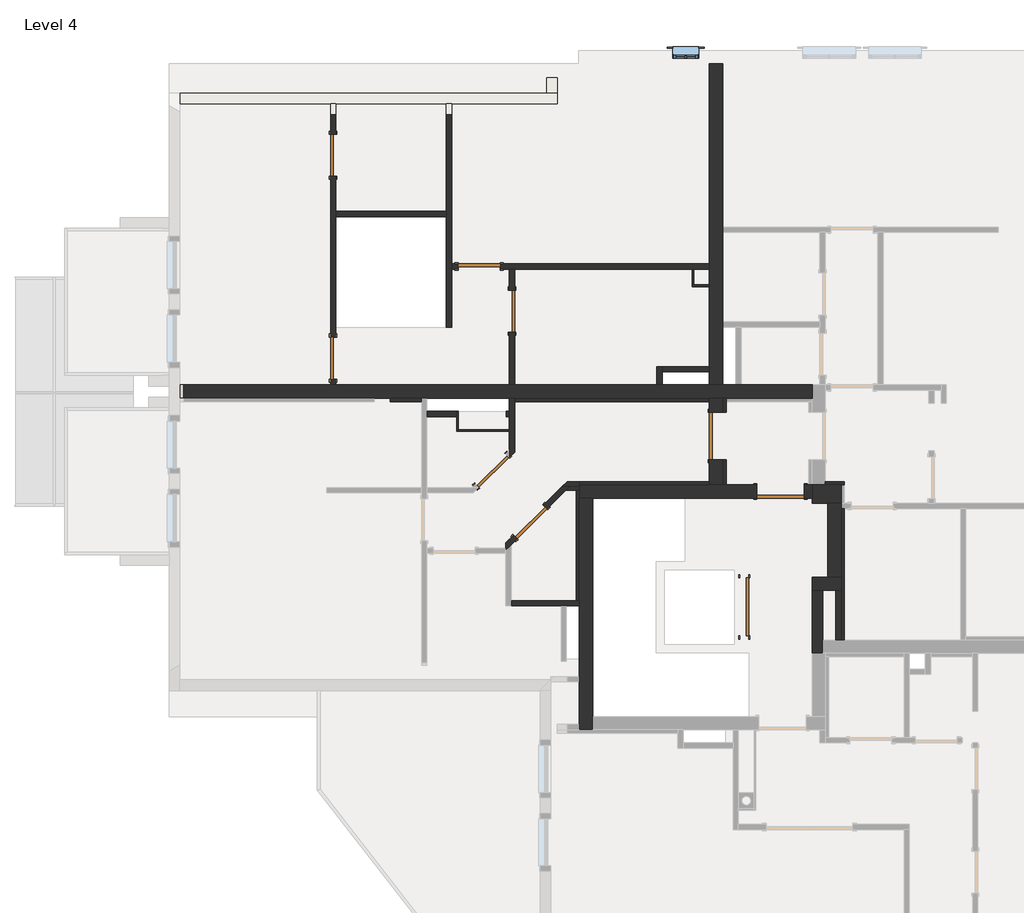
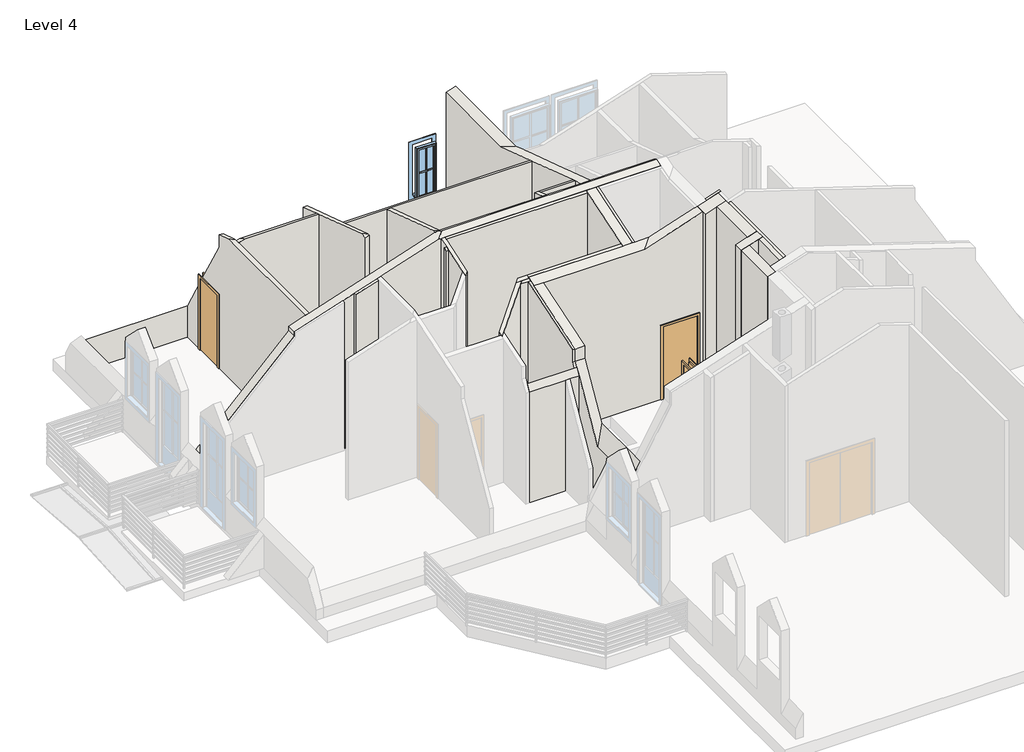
# One storey, part 3 of 4: 37 walls, 9 doors, 1 window.
"""IFC4 building model written with IfcOpenShell, lengths in millimetres."""

from ifc_helpers import new_model, si_unit, frame, origin, place, context, project, spatial, polyline, outline, extrude, faceted_brep, transform, mapped, element, save
from components import standard_door_sd_1100x2000_1d62120a, standard_door_sd_800x2000_6a16926d, standard_door_sd_800x2000_80f4ff25, standard_door_sd_900x2000_a6683946, standard_door_sd_900x2000_4224ae2a, standard_window_with_mullions_cf772253

model = new_model("IFC4")

# Units and contexts
model_context = context("Model", 3, world=origin())
ifc_project = project(units=[si_unit("LENGTHUNIT", "METRE", prefix="MILLI")], contexts=[model_context])

# Site, building, storey
site = spatial("IfcSite", under=ifc_project)
building = spatial("IfcBuilding", under=site)
storey = spatial("IfcBuildingStorey", under=building, Name="Level 4", Elevation=11800.0)

# Doors
placement = place(None, origin())
standard_door_sd_1100x2000_shape = standard_door_sd_1100x2000_1d62120a(model_context)
element("IfcDoor", 1, ObjectType="Standard Door : SD 1100x2000", at=placement, inside=storey, context=model_context, shape_type="MappedRepresentation", body=[
    mapped(standard_door_sd_1100x2000_shape, transform((277.8037835, 250.1290541, 11800.0), x_axis=(0.0, -1.0, 0.0), y_axis=(1.0, 0.0, 0.0), z_axis=(0.0, 0.0, 1.0))),
])
standard_door_sd_800x2000_shape = standard_door_sd_800x2000_6a16926d(model_context)
element("IfcDoor", 2, ObjectType="Standard Door : SD 800x2000", at=placement, inside=storey, context=model_context, shape_type="MappedRepresentation", body=[
    mapped(standard_door_sd_800x2000_shape, transform((-4517.2943935, 2840.0499619, 11800.0), x_axis=(0.712655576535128, 0.7015140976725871, 0.0), y_axis=(-0.7015140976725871, 0.712655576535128, 0.0), z_axis=(0.0, 0.0, 1.0))),
])
element("IfcDoor", 3, ObjectType="Standard Door : SD 800x2000", at=placement, inside=storey, context=model_context, shape_type="MappedRepresentation", body=[
    mapped(standard_door_sd_800x2000_shape, transform((-4137.1962165, 5871.7254016, 11800.0), x_axis=(0.0, 0.9999999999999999, 0.0), y_axis=(-0.9999999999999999, 0.0, 0.0), z_axis=(0.0, 0.0, 1.0))),
])
element("IfcDoor", 4, ObjectType="Standard Door : SD 800x2000", at=placement, inside=storey, context=model_context, shape_type="MappedRepresentation", body=[
    mapped(standard_door_sd_800x2000_shape, transform((-7537.1962165, 8831.4295669, 11800.0), x_axis=(0.0, -1.0, 0.0), y_axis=(1.0, 0.0, 0.0), z_axis=(0.0, 0.0, 1.0))),
])
standard_door_sd_800x2000_2_shape = standard_door_sd_800x2000_80f4ff25(model_context)
element("IfcDoor", 5, ObjectType="Standard Door : SD 800x2000", at=placement, inside=storey, context=model_context, shape_type="MappedRepresentation", body=[
    mapped(standard_door_sd_800x2000_2_shape, transform((-3790.7010875, 1863.413505, 11800.0), x_axis=(-0.7071067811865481, -0.7071067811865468, 0.0), y_axis=(0.7071067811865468, -0.7071067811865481, 0.0), z_axis=(0.0, 0.0, 1.0))),
])
element("IfcDoor", 6, ObjectType="Standard Door : SD 800x2000", at=placement, inside=storey, context=model_context, shape_type="MappedRepresentation", body=[
    mapped(standard_door_sd_800x2000_2_shape, transform((-7537.1962165, 4978.4889536, 11800.0), x_axis=(0.0, 1.0, 0.0), y_axis=(-1.0, 0.0, 0.0), z_axis=(0.0, 0.0, 1.0))),
])
element("IfcDoor", 7, ObjectType="Standard Door : SD 800x2000", at=placement, inside=storey, context=model_context, shape_type="MappedRepresentation", body=[
    mapped(standard_door_sd_800x2000_2_shape, transform((-4763.3256924, 6717.6290541, 11800.0), x_axis=(1.0, 0.0, 0.0), y_axis=(0.0, 1.0, 0.0), z_axis=(0.0, 0.0, 1.0))),
])
standard_door_sd_900x2000_shape = standard_door_sd_900x2000_a6683946(model_context)
element("IfcDoor", 8, ObjectType="Standard Door : SD 900x2000", at=placement, inside=storey, context=model_context, shape_type="MappedRepresentation", body=[
    mapped(standard_door_sd_900x2000_shape, transform((-262.1962165, 3497.5977832, 11800.0), x_axis=(0.0, -1.0, 0.0), y_axis=(1.0, 0.0, 0.0), z_axis=(0.0, 0.0, 1.0))),
])
standard_door_sd_900x2000_2_shape = standard_door_sd_900x2000_4224ae2a(model_context)
element("IfcDoor", 9, ObjectType="Standard Door : SD 900x2000", at=placement, inside=storey, context=model_context, shape_type="MappedRepresentation", body=[
    mapped(standard_door_sd_900x2000_2_shape, transform((965.3697901, 2442.6290541, 11800.0), x_axis=(-1.0, 0.0, 0.0), y_axis=(0.0, -1.0, 0.0), z_axis=(0.0, 0.0, 1.0))),
])

# Walls
element("IfcWall", 10, ObjectType="Exterior - 150+50mm", at=placement, inside=storey, context=model_context, shape_type="Brep", body=[
    faceted_brep([(-10456.4352243, 9807.6290541, 11800.0), (-7587.1962165, 9807.6290541, 11800.0), (-7487.1962165, 9807.6290541, 11800.0), (-5387.1962165, 9807.6290541, 11800.0), (-5287.1962165, 9807.6290541, 11800.0), (-3277.1962165, 9807.6290541, 11800.0), (-3277.1962165, 9807.6290541, 12667.9110615), (-5287.1962165, 9807.6290541, 12667.9110615), (-5387.1962165, 9807.6290541, 12667.9110615), (-7487.1962165, 9807.6290541, 12667.9110615), (-7587.1962165, 9807.6290541, 12667.9110615), (-10456.4352243, 9807.6290541, 12667.9110615), (-10456.4352243, 10007.6290541, 11800.0), (-10456.4352243, 10007.6290541, 12321.5009), (-3477.1962165, 10007.6290541, 12321.5009), (-3277.1962165, 10007.6290541, 12321.5009), (-3277.1962165, 10007.6290541, 11800.0), (-3477.1962165, 10007.6290541, 11800.0)], [[[0, 1, 2, 3, 4, 5, 6, 7, 8, 9, 10, 11]], [[12, 13, 14, 15, 16, 17]], [[5, 4, 3, 2, 1, 0, 12, 17, 16]], [[6, 5, 16, 15]], [[0, 11, 13, 12]], [[11, 10, 9, 8, 7, 6, 15, 14, 13]]]),
])
element("IfcWall", 11, ObjectType="Exterior - 150+50mm", at=placement, inside=storey, context=model_context, shape_type="SweptSolid", body=[
    extrude(outline(polyline([(10007.6290541, 11800.0), (10007.6290541, 12321.5009), (10308.7177391, 11800.0), (10007.6290541, 11800.0)])), frame((-3477.1962165, 0.0, 0.0), z_axis=(1.0, 0.0, 0.0), x_axis=(0.0, 1.0, 0.0)), (0.0, 0.0, 1.0), 200.0),
])
element("IfcWall", 12, ObjectType="Interior - 100mm", at=placement, inside=storey, context=model_context, shape_type="Brep", body=[
    faceted_brep([(-4187.1962165, 3094.8273477, 11800.0), (-4187.1962165, 3235.1475855, 11800.0), (-4187.1962165, 3587.6290541, 11800.0), (-4187.1962165, 3617.6290541, 11800.0), (-4187.1962165, 3867.6290541, 11800.0), (-4187.1962165, 3967.6290541, 11800.0), (-4187.1962165, 4217.6290541, 11800.0), (-4087.1962165, 4217.6290541, 11800.0), (-4087.1962165, 4152.6290541, 11800.0), (-4087.1962165, 3193.2639727, 11800.0), (-4187.1962165, 3094.8273477, 16359.5045059), (-4187.1962165, 3235.1475855, 16405.097315), (-4187.1962165, 3867.6290541, 16610.6030016), (-4187.1962165, 3967.6290541, 16643.0949712), (-4187.1962165, 4217.6290541, 16724.3248953), (-4087.1962165, 4217.6290541, 16724.3248953), (-4087.1962165, 4152.6290541, 16703.205115), (-4087.1962165, 3193.2639727, 16391.4885042)], [[[0, 1, 2, 3, 4, 5, 6, 7, 8, 9]], [[6, 5, 4, 3, 2, 1, 0, 10, 11, 12, 13, 14]], [[7, 15, 16, 17, 9, 8]], [[6, 14, 15, 7]], [[10, 0, 9, 17]], [[14, 13, 12, 11, 10, 17, 16, 15]]]),
])
element("IfcWall", 13, ObjectType="Interior - 100mm", at=placement, inside=storey, context=model_context, shape_type="Brep", body=[
    faceted_brep([(-2857.1962165, 2632.6290541, 11800.0), (-3092.1962165, 2632.6290541, 11800.0), (-3092.1962165, 2632.6290541, 16209.3271768), (-2857.1962165, 2632.6290541, 16209.3271768), (-2857.1962165, 2532.6290541, 11800.0), (-2857.1962165, 2532.6290541, 16176.8352071), (-3050.7748603, 2532.6290541, 16176.8352071), (-3192.1962165, 2532.6290541, 16176.8352071), (-3192.1962165, 2532.6290541, 11800.0), (-3050.7748603, 2532.6290541, 11800.0)], [[[0, 1, 2, 3]], [[4, 5, 6, 7, 8, 9]], [[1, 0, 4, 9, 8]], [[2, 1, 8, 7]], [[0, 3, 5, 4]], [[3, 2, 7, 6, 5]]]),
])
element("IfcWall", 14, ObjectType="Interior - 100mm", at=placement, inside=storey, context=model_context, shape_type="Brep", body=[
    faceted_brep([(-4257.1962165, 1467.6290541, 11800.0), (-4108.899139, 1615.9261316, 11800.0), (-4038.1884609, 1545.2154535, 11800.0), (-4157.1962165, 1426.2076978, 11800.0), (-4257.1962165, 1326.2076978, 11800.0), (-3543.2137141, 2181.6115566, 11800.0), (-3192.1962165, 2532.6290541, 11800.0), (-3050.7748603, 2532.6290541, 11800.0), (-3115.7748603, 2467.6290541, 11800.0), (-3472.5030359, 2110.9008784, 11800.0), (-4108.899139, 1615.9261316, 13800.0), (-4257.1962165, 1467.6290541, 15830.7957306), (-3192.1962165, 2532.6290541, 16176.8352071), (-3543.2137141, 2181.6115566, 13800.0), (-4038.1884609, 1545.2154535, 13800.0), (-3472.5030359, 2110.9008784, 13800.0), (-3050.7748603, 2532.6290541, 16176.8352071), (-3115.7748603, 2467.6290541, 16155.7154269), (-4157.1962165, 1426.2076978, 15817.3371162), (-4257.1962165, 1326.2076978, 15784.8451465)], [[[0, 1, 2, 3, 4]], [[5, 6, 7, 8, 9]], [[10, 1, 0, 11, 12, 6, 5, 13]], [[4, 3, 2, 14, 15, 9, 8, 7, 16, 17, 18, 19]], [[11, 0, 4, 19]], [[6, 12, 16, 7]], [[12, 11, 19, 18, 17, 16]], [[14, 2, 1, 10]], [[15, 14, 10, 13]], [[9, 15, 13, 5]]]),
])
element("IfcWall", 15, ObjectType="Interior - 100mm", at=placement, inside=storey, context=model_context, shape_type="Brep", body=[
    faceted_brep([(-4157.1962165, 267.6290541, 11800.0), (-3207.1962165, 267.6290541, 11800.0), (-3107.1962165, 267.6290541, 11800.0), (-2857.1962165, 267.6290541, 11800.0), (-2857.1962165, 267.6290541, 14861.0362405), (-3107.1962165, 267.6290541, 14861.0362405), (-3207.1962165, 267.6290541, 14861.0362405), (-4157.1962165, 267.6290541, 14861.0362405), (-4157.1962165, 367.6290541, 11800.0), (-4157.1962165, 367.6290541, 15034.2413213), (-2922.1962165, 367.6290541, 15034.2413213), (-2857.1962165, 367.6290541, 15034.2413213), (-2857.1962165, 367.6290541, 11800.0), (-2922.1962165, 367.6290541, 11800.0)], [[[0, 1, 2, 3, 4, 5, 6, 7]], [[8, 9, 10, 11, 12, 13]], [[3, 2, 1, 0, 8, 13, 12]], [[0, 7, 9, 8]], [[4, 3, 12, 11]], [[7, 6, 5, 4, 11, 10, 9]]]),
])
element("IfcWall", 16, ObjectType="Interior - 100mm", at=placement, inside=storey, context=model_context, shape_type="SweptSolid", body=[
    extrude(outline(polyline([(3967.6290541, 16643.0949712), (3967.6290541, 11800.0), (3867.6290541, 11800.0), (3867.6290541, 16610.6030016), (3967.6290541, 16643.0949712)])), frame((-4252.0439618, 0.0, 0.0), z_axis=(1.0, 0.0, 0.0), x_axis=(0.0, 1.0, 0.0)), (0.0, 0.0, 1.0), 64.8477452),
])
element("IfcWall", 17, ObjectType="Interior - 100mm", at=placement, inside=storey, context=model_context, shape_type="Brep", body=[
    faceted_brep([(-7587.1962165, 9807.6290541, 11800.0), (-7487.1962165, 9807.6290541, 11800.0), (-7487.1962165, 9231.4295669, 11800.0), (-7587.1962165, 9231.4295669, 11800.0), (-7587.1962165, 9807.6290541, 12667.9110615), (-7587.1962165, 9231.4295669, 13665.9178486), (-7487.1962165, 9807.6290541, 12667.9110615), (-7487.1962165, 9231.4295669, 13665.9178486)], [[[0, 1, 2, 3]], [[4, 0, 3, 5]], [[1, 6, 7, 2]], [[0, 4, 6, 1]], [[6, 4, 5, 7]], [[3, 2, 7, 5]]]),
    faceted_brep([(-7487.1962165, 4467.6290541, 11800.0), (-7587.1962165, 4467.6290541, 11800.0), (-7587.1962165, 4578.4889536, 11800.0), (-7487.1962165, 4578.4889536, 11800.0), (-7487.1962165, 5378.4889536, 11800.0), (-7587.1962165, 5378.4889536, 11800.0), (-7587.1962165, 8431.4295669, 11800.0), (-7487.1962165, 8431.4295669, 11800.0), (-7487.1962165, 7767.6290541, 11800.0), (-7487.1962165, 7667.6290541, 11800.0), (-7587.1962165, 4467.6290541, 15637.1643294), (-7587.1962165, 7937.3638174, 15637.1643294), (-7587.1962165, 8372.0175181, 15495.936781), (-7587.1962165, 8372.0175181, 15154.4631818), (-7587.1962165, 9154.0172007, 13800.0), (-7587.1962165, 8431.4295669, 13800.0), (-7587.1962165, 5378.4889536, 13800.0), (-7587.1962165, 4578.4889536, 13800.0), (-7487.1962165, 4467.6290541, 15669.6562991), (-7487.1962165, 4578.4889536, 13800.0), (-7487.1962165, 5378.4889536, 13800.0), (-7487.1962165, 8431.4295669, 13800.0), (-7487.1962165, 9154.0172007, 13800.0), (-7487.1962165, 8372.0175181, 15154.4631818), (-7487.1962165, 8372.0175181, 15495.936781), (-7487.1962165, 7837.3638174, 15669.6562991), (-7487.1962165, 7767.6290541, 15669.6562991), (-7487.1962165, 7667.6290541, 15669.6562991)], [[[0, 1, 2, 3]], [[4, 5, 6, 7, 8, 9]], [[1, 10, 11, 12, 13, 14, 15, 6, 5, 16, 17, 2]], [[18, 0, 3, 19, 20, 4, 9, 8, 7, 21, 22, 23, 24, 25, 26, 27]], [[10, 1, 0, 18]], [[13, 12, 24, 23]], [[13, 23, 22, 14]], [[24, 12, 11, 25]], [[10, 18, 27, 26, 25, 11]], [[16, 5, 4, 20]], [[17, 16, 20, 19]], [[2, 17, 19, 3]], [[15, 21, 7, 6]], [[21, 15, 14, 22]]]),
])
element("IfcWall", 18, ObjectType="Interior - 100mm", at=placement, inside=storey, context=model_context, shape_type="Brep", body=[
    faceted_brep([(-7487.1962165, 7667.6290541, 11800.0), (-5387.1962165, 7667.6290541, 11800.0), (-5387.1962165, 7667.6290541, 15724.8064668), (-7317.4614532, 7667.6290541, 15724.8064668), (-7487.1962165, 7667.6290541, 15669.6562991), (-7487.1962165, 7767.6290541, 11800.0), (-7487.1962165, 7767.6290541, 15669.6562991), (-7417.4614532, 7767.6290541, 15692.3144972), (-5387.1962165, 7767.6290541, 15692.3144972), (-5387.1962165, 7767.6290541, 11800.0)], [[[0, 1, 2, 3, 4]], [[5, 6, 7, 8, 9]], [[1, 0, 5, 9]], [[0, 4, 6, 5]], [[2, 1, 9, 8]], [[4, 3, 7, 6]], [[3, 2, 8, 7]]]),
])
element("IfcWall", 19, ObjectType="Interior - 100mm", at=placement, inside=storey, context=model_context, shape_type="Brep", body=[
    faceted_brep([(-5287.1962165, 5567.6290541, 11800.0), (-5287.1962165, 6667.6290541, 11800.0), (-5287.1962165, 6767.6290541, 11800.0), (-5287.1962165, 9807.6290541, 11800.0), (-5287.1962165, 9807.6290541, 12667.9110615), (-5287.1962165, 8372.0175181, 15154.4631818), (-5287.1962165, 8372.0175181, 15495.936781), (-5287.1962165, 6767.6290541, 16017.2341934), (-5287.1962165, 6667.6290541, 16049.726163), (-5287.1962165, 5637.3638174, 16384.4796308), (-5287.1962165, 5567.6290541, 16384.4796308), (-5387.1962165, 5567.6290541, 11800.0), (-5387.1962165, 5567.6290541, 16351.9876611), (-5387.1962165, 5737.3638174, 16351.9876611), (-5387.1962165, 7667.6290541, 15724.8064668), (-5387.1962165, 7767.6290541, 15692.3144972), (-5387.1962165, 8372.0175181, 15495.936781), (-5387.1962165, 8372.0175181, 15154.4631818), (-5387.1962165, 9807.6290541, 12667.9110615), (-5387.1962165, 9807.6290541, 11800.0), (-5387.1962165, 7767.6290541, 11800.0), (-5387.1962165, 7667.6290541, 11800.0)], [[[0, 1, 2, 3, 4, 5, 6, 7, 8, 9, 10]], [[11, 12, 13, 14, 15, 16, 17, 18, 19, 20, 21]], [[3, 2, 1, 0, 11, 21, 20, 19]], [[0, 10, 12, 11]], [[4, 3, 19, 18]], [[5, 17, 16, 6]], [[5, 4, 18, 17]], [[10, 9, 13, 12]], [[9, 8, 7, 6, 16, 15, 14, 13]]]),
])
element("IfcWall", 20, ObjectType="Interior - 100mm", at=placement, inside=storey, context=model_context, shape_type="Brep", body=[
    faceted_brep([(-387.1962165, 6667.6290541, 11800.0), (-687.1962165, 6667.6290541, 11800.0), (-717.1962165, 6667.6290541, 11800.0), (-4087.1962165, 6667.6290541, 11800.0), (-4187.1962165, 6667.6290541, 11800.0), (-4363.3256924, 6667.6290541, 11800.0), (-4363.3256924, 6767.6290541, 11800.0), (-387.1962165, 6767.6290541, 11800.0), (-5163.3256924, 6667.6290541, 11800.0), (-5287.1962165, 6667.6290541, 11800.0), (-5287.1962165, 6767.6290541, 11800.0), (-5163.3256924, 6767.6290541, 11800.0), (-4363.3256924, 6667.6290541, 13800.0), (-387.1962165, 6667.6290541, 16049.726163), (-4087.1962165, 6667.6290541, 16049.726163), (-4187.1962165, 6667.6290541, 16049.726163), (-5287.1962165, 6667.6290541, 16049.726163), (-5163.3256924, 6667.6290541, 13800.0), (-4363.3256924, 6767.6290541, 13800.0), (-5163.3256924, 6767.6290541, 13800.0), (-5287.1962165, 6767.6290541, 16017.2341934), (-387.1962165, 6767.6290541, 16017.2341934)], [[[0, 1, 2, 3, 4, 5, 6, 7]], [[8, 9, 10, 11]], [[12, 5, 4, 3, 2, 1, 0, 13, 14, 15, 16, 9, 8, 17]], [[7, 6, 18, 19, 11, 10, 20, 21]], [[9, 16, 20, 10]], [[13, 0, 7, 21]], [[16, 15, 14, 13, 21, 20]], [[18, 6, 5, 12]], [[19, 18, 12, 17]], [[11, 19, 17, 8]]]),
])
element("IfcWall", 21, ObjectType="Interior - 100mm", at=placement, inside=storey, context=model_context, shape_type="Brep", body=[
    faceted_brep([(-4087.1962165, 6667.6290541, 11800.0), (-4087.1962165, 6271.7254016, 11800.0), (-4187.1962165, 6271.7254016, 11800.0), (-4187.1962165, 6667.6290541, 11800.0), (-4087.1962165, 5471.7254016, 11800.0), (-4087.1962165, 4467.6290541, 11800.0), (-4187.1962165, 4467.6290541, 11800.0), (-4187.1962165, 5471.7254016, 11800.0), (-4087.1962165, 6271.7254016, 13800.0), (-4087.1962165, 6667.6290541, 16049.726163), (-4087.1962165, 4467.6290541, 16764.5494947), (-4087.1962165, 5471.7254016, 13800.0), (-4187.1962165, 6271.7254016, 13800.0), (-4187.1962165, 5471.7254016, 13800.0), (-4187.1962165, 4467.6290541, 16741.8912966), (-4187.1962165, 4537.3638174, 16741.8912966), (-4187.1962165, 6667.6290541, 16049.726163), (-4117.4614532, 4467.6290541, 16764.5494947)], [[[0, 1, 2, 3]], [[4, 5, 6, 7]], [[8, 1, 0, 9, 10, 5, 4, 11]], [[3, 2, 12, 13, 7, 6, 14, 15, 16]], [[5, 10, 17, 14, 6]], [[9, 0, 3, 16]], [[10, 9, 16, 15, 17]], [[15, 14, 17]], [[12, 2, 1, 8]], [[13, 12, 8, 11]], [[7, 13, 11, 4]]]),
])
element("IfcWall", 22, ObjectType="Interior - 100mm", at=placement, inside=storey, context=model_context, shape_type="Brep", body=[
    faceted_brep([(-1287.1962165, 4467.6290541, 11800.0), (-1287.1962165, 4717.6290541, 11800.0), (-1287.1962165, 4817.6290541, 11800.0), (-1287.1962165, 4817.6290541, 16650.8276011), (-1287.1962165, 4717.6290541, 16683.3195707), (-1287.1962165, 4467.6290541, 16764.5494947), (-1387.1962165, 4467.6290541, 11800.0), (-1387.1962165, 4467.6290541, 16764.5494947), (-1387.1962165, 4817.6290541, 16650.8276011), (-1387.1962165, 4817.6290541, 11800.0)], [[[0, 1, 2, 3, 4, 5]], [[6, 7, 8, 9]], [[2, 1, 0, 6, 9]], [[3, 2, 9, 8]], [[0, 5, 7, 6]], [[5, 4, 3, 8, 7]]]),
])
element("IfcWall", 23, ObjectType="Interior - 100mm", at=placement, inside=storey, context=model_context, shape_type="SweptSolid", body=[
    extrude(outline(polyline([(4717.6290541, 11800.0), (4717.6290541, 16683.3195707), (4817.6290541, 16650.8276011), (4817.6290541, 11800.0), (4717.6290541, 11800.0)])), frame((-1287.1962165, 0.0, 0.0), z_axis=(1.0, 0.0, 0.0), x_axis=(0.0, 1.0, 0.0)), (0.0, 0.0, 1.0), 900.0),
])
element("IfcWall", 24, ObjectType="Interior - 100mm", at=placement, inside=storey, context=model_context, shape_type="SweptSolid", body=[
    extrude(outline(polyline([(16748.3035099, 2012.8037835), (11800.0, 2012.8037835), (11800.0, 2112.8037835), (16780.7954795, 2112.8037835), (16748.3035099, 2012.8037835)])), frame((0.0, -382.3709459, 0.0), z_axis=(0.0, 1.0, 0.0), x_axis=(0.0, 0.0, 1.0)), (0.0, 0.0, 1.0), 950.0),
])
element("IfcWall", 25, ObjectType="Interior - 100mm", at=placement, inside=storey, context=model_context, shape_type="SweptSolid", body=[
    extrude(outline(polyline([(-5187.1962165, 3867.6290541), (-5757.1962165, 3867.6290541), (-5757.1962165, 3967.6290541), (-5187.1962165, 3967.6290541), (-5187.1962165, 3867.6290541)])), frame((0.0, 0.0, 11800.0), z_axis=(0.0, 0.0, 1.0), x_axis=(1.0, 0.0, 0.0)), (0.0, 0.0, 1.0), 2950.0),
])
element("IfcWall", 26, ObjectType="Interior - 200mm", at=placement, inside=storey, context=model_context, shape_type="Brep", body=[
    faceted_brep([(1762.8059596, -632.3709459, 11800.0), (1762.8055844, -382.3709459, 11800.0), (1762.8041587, 567.6290541, 11800.0), (1762.8041587, 567.6290541, 16667.0737078), (1762.8055844, -382.3709459, 16667.074171), (1762.8059596, -632.3709459, 16667.0742929), (1562.8059596, -632.3709459, 11800.0), (1562.8059596, -632.3709459, 16602.0903537), (1562.8041587, 567.6290541, 16602.0897685), (1562.8041587, 567.6290541, 11800.0)], [[[0, 1, 2, 3, 4, 5]], [[6, 7, 8, 9]], [[2, 1, 0, 6, 9]], [[0, 5, 7, 6]], [[3, 2, 9, 8]], [[5, 4, 3, 8, 7]]]),
])
element("IfcWall", 27, ObjectType="Interior - 250mm", at=placement, inside=storey, context=model_context, shape_type="Brep", body=[
    faceted_brep([(-2857.1962165, 2567.6290541, 11800.0), (-387.1962165, 2567.6290541, 11800.0), (-137.1962165, 2567.6290541, 11800.0), (-72.1962165, 2567.6290541, 11800.0), (515.3697901, 2567.6290541, 11800.0), (515.3697901, 2317.6290541, 11800.0), (-2607.1962165, 2317.6290541, 11800.0), (-2857.1962165, 2317.6290541, 11800.0), (1415.3697901, 2567.6290541, 11800.0), (1497.8037835, 2567.6290541, 11800.0), (1562.8037835, 2567.6290541, 11800.0), (1562.8037835, 2317.6290541, 11800.0), (1415.3697901, 2317.6290541, 11800.0), (515.3697901, 2317.6290541, 13800.0), (1415.3697901, 2317.6290541, 13800.0), (1562.8037835, 2317.6290541, 16602.0896466), (39.0051959, 2317.6290541, 16106.9774724), (-2607.1962165, 2317.6290541, 16106.9774724), (-2857.1962165, 2317.6290541, 16106.9774724), (515.3697901, 2567.6290541, 13800.0), (-2857.1962165, 2567.6290541, 16188.2073965), (-387.1962165, 2567.6290541, 16188.2073965), (-137.1962165, 2567.6290541, 16188.2073965), (-72.1962165, 2567.6290541, 16188.2073965), (289.0051959, 2567.6290541, 16188.2073965), (1497.8037835, 2567.6290541, 16580.9698664), (1562.8037835, 2567.6290541, 16602.0896466), (1415.3697901, 2567.6290541, 13800.0)], [[[0, 1, 2, 3, 4, 5, 6, 7]], [[8, 9, 10, 11, 12]], [[7, 6, 5, 13, 14, 12, 11, 15, 16, 17, 18]], [[19, 4, 3, 2, 1, 0, 20, 21, 22, 23, 24, 25, 26, 10, 9, 8, 27]], [[7, 18, 20, 0]], [[15, 11, 10, 26]], [[18, 17, 16, 24, 23, 22, 21, 20]], [[16, 15, 26, 25, 24]], [[13, 5, 4, 19]], [[14, 13, 19, 27]], [[12, 14, 27, 8]]]),
])
element("IfcWall", 28, ObjectType="Interior - 250mm", at=placement, inside=storey, context=model_context, shape_type="Brep", body=[
    faceted_brep([(-2857.1962165, -2082.3709459, 11800.0), (-2857.1962165, -1982.3709459, 11800.0), (-2857.1962165, -1172.3709459, 11800.0), (-2857.1962165, -1072.3709459, 11800.0), (-2857.1962165, -732.3709459, 11800.0), (-2857.1962165, 267.6290541, 11800.0), (-2857.1962165, 367.6290541, 11800.0), (-2857.1962165, 2317.6290541, 11800.0), (-2607.1962165, 2317.6290541, 11800.0), (-2607.1962165, -1832.3709459, 11800.0), (-2607.1962165, -2082.3709459, 11800.0), (-2857.1962165, -2082.3709459, 13395.3724007), (-2857.1962165, -1982.3709459, 13395.3724007), (-2857.1962165, -1172.3709459, 13395.3724007), (-2857.1962165, -1072.3709459, 13395.3724007), (-2857.1962165, -578.5723584, 13395.3724007), (-2857.1962165, 267.6290541, 14861.0362405), (-2857.1962165, 367.6290541, 15034.2413213), (-2857.1962165, 437.0391776, 15154.4631818), (-2857.1962165, 437.0391776, 15495.936781), (-2857.1962165, 2317.6290541, 16106.9774724), (-2607.1962165, 2317.6290541, 16106.9774724), (-2607.1962165, 437.0391776, 15495.936781), (-2607.1962165, 437.0391776, 15154.4631818), (-2607.1962165, -328.5723584, 13828.3851026), (-2607.1962165, -1832.3709459, 13828.3851026), (-2607.1962165, -2082.3709459, 13828.3851026)], [[[0, 1, 2, 3, 4, 5, 6, 7, 8, 9, 10]], [[7, 6, 5, 4, 3, 2, 1, 0, 11, 12, 13, 14, 15, 16, 17, 18, 19, 20]], [[8, 21, 22, 23, 24, 25, 26, 10, 9]], [[7, 20, 21, 8]], [[11, 0, 10, 26]], [[18, 23, 22, 19]], [[18, 17, 16, 15, 24, 23]], [[15, 14, 13, 12, 11, 26, 25, 24]], [[20, 19, 22, 21]]]),
])
element("IfcWall", 29, ObjectType="Interior - 250mm", at=placement, inside=storey, context=model_context, shape_type="Brep", body=[
    faceted_brep([(1562.8041587, 567.6290541, 11800.0), (1762.8041587, 567.6290541, 11800.0), (2012.8037835, 567.6290541, 11800.0), (2112.8037835, 567.6290541, 11800.0), (2112.8037835, 567.6290541, 16780.7954795), (2012.8037835, 567.6290541, 16748.3035099), (1762.8041587, 567.6290541, 16667.0737078), (1562.8041587, 567.6290541, 16602.0897685), (1562.8037835, 817.6290541, 11800.0), (1562.8037835, 817.6290541, 16602.0896466), (1862.8037835, 817.6290541, 16699.5655555), (2112.8037835, 817.6290541, 16780.7954795), (2112.8037835, 817.6290541, 11800.0), (1862.8037835, 817.6290541, 11800.0)], [[[0, 1, 2, 3, 4, 5, 6, 7]], [[8, 9, 10, 11, 12, 13]], [[3, 2, 1, 0, 8, 13, 12]], [[0, 7, 9, 8]], [[4, 3, 12, 11]], [[7, 6, 5, 4, 11, 10, 9]]]),
])
element("IfcWall", 30, ObjectType="Interior - 250mm", at=placement, inside=storey, context=model_context, shape_type="Brep", body=[
    faceted_brep([(2112.8037835, 817.6290541, 11800.0), (2112.8037835, 2116.2076978, 11800.0), (2112.8037835, 2216.2076978, 11800.0), (2112.8037835, 2217.6290541, 11800.0), (2112.8037835, 2217.6290541, 16780.7954795), (2112.8037835, 2216.2076978, 16780.7954795), (2112.8037835, 2116.2076978, 16780.7954795), (2112.8037835, 817.6290541, 16780.7954795), (1862.8037835, 817.6290541, 11800.0), (1862.8037835, 817.6290541, 16699.5655555), (1862.8037835, 2217.6290541, 16699.5655555), (1862.8037835, 2217.6290541, 11800.0)], [[[0, 1, 2, 3, 4, 5, 6, 7]], [[8, 9, 10, 11]], [[3, 2, 1, 0, 8, 11]], [[0, 7, 9, 8]], [[4, 3, 11, 10]], [[7, 6, 5, 4, 10, 9]]]),
])
element("IfcWall", 31, ObjectType="Interior - 250mm", at=placement, inside=storey, context=model_context, shape_type="Brep", body=[
    faceted_brep([(-10456.4352243, 4467.6290541, 11800.0), (-7587.1962165, 4467.6290541, 11800.0), (-7487.1962165, 4467.6290541, 11800.0), (-4187.1962165, 4467.6290541, 11800.0), (-4087.1962165, 4467.6290541, 11800.0), (-1387.1962165, 4467.6290541, 11800.0), (-1287.1962165, 4467.6290541, 11800.0), (-387.1962165, 4467.6290541, 11800.0), (-137.1962165, 4467.6290541, 11800.0), (112.8037835, 4467.6290541, 11800.0), (212.8037835, 4467.6290541, 11800.0), (1562.8037835, 4467.6290541, 11800.0), (1562.8037835, 4217.6290541, 11800.0), (-72.1962165, 4217.6290541, 11800.0), (-137.1962165, 4217.6290541, 11800.0), (-387.1962165, 4217.6290541, 11800.0), (-4087.1962165, 4217.6290541, 11800.0), (-4187.1962165, 4217.6290541, 11800.0), (-5757.1962165, 4217.6290541, 11800.0), (-5857.1962165, 4217.6290541, 11800.0), (-10456.4352243, 4217.6290541, 11800.0), (-10456.4352243, 4467.6290541, 12930.7609923), (-8021.8499172, 4467.6290541, 15365.3462993), (-8021.8499172, 4467.6290541, 15495.936781), (-7587.1962165, 4467.6290541, 15637.1643294), (-7487.1962165, 4467.6290541, 15669.6562991), (-4187.1962165, 4467.6290541, 16741.8912966), (-4117.4614532, 4467.6290541, 16764.5494947), (-4087.1962165, 4467.6290541, 16764.5494947), (-1387.1962165, 4467.6290541, 16764.5494947), (-1287.1962165, 4467.6290541, 16764.5494947), (-387.1962165, 4467.6290541, 16764.5494947), (-137.1962165, 4467.6290541, 16764.5494947), (112.8037835, 4467.6290541, 16764.5494947), (212.8037835, 4467.6290541, 16764.5494947), (1562.8037835, 4467.6290541, 16764.5494947), (1562.8037835, 4217.6290541, 16724.3248953), (-72.1962165, 4217.6290541, 16724.3248953), (-137.1962165, 4217.6290541, 16724.3248953), (-387.1962165, 4217.6290541, 16724.3248953), (-4087.1962165, 4217.6290541, 16724.3248953), (-4187.1962165, 4217.6290541, 16724.3248953), (-4241.2600407, 4217.6290541, 16724.3248953), (-5757.1962165, 4217.6290541, 16231.7673735), (-5857.1962165, 4217.6290541, 16199.2754039), (-8021.8499172, 4217.6290541, 15495.936781), (-8021.8499172, 4217.6290541, 15365.3462993), (-10456.4352243, 4217.6290541, 12930.7609923), (1562.8037835, 4404.5283479, 16785.052157), (-4054.360747, 4404.5283479, 16785.052157)], [[[0, 1, 2, 3, 4, 5, 6, 7, 8, 9, 10, 11, 12, 13, 14, 15, 16, 17, 18, 19, 20]], [[11, 10, 9, 8, 7, 6, 5, 4, 3, 2, 1, 0, 21, 22, 23, 24, 25, 26, 27, 28, 29, 30, 31, 32, 33, 34, 35]], [[12, 36, 37, 38, 39, 40, 41, 42, 43, 44, 45, 46, 47, 20, 19, 18, 17, 16, 15, 14, 13]], [[21, 0, 20, 47]], [[11, 35, 48, 36, 12]], [[22, 46, 45, 23]], [[22, 21, 47, 46]], [[35, 34, 33, 32, 31, 30, 29, 28, 27, 49, 48]], [[27, 26, 25, 24, 23, 45, 44, 43, 42, 49]], [[42, 41, 40, 39, 38, 37, 36, 48, 49]]]),
])
element("IfcWall", 32, ObjectType="Interior - 250mm", at=placement, inside=storey, context=model_context, shape_type="Brep", body=[
    faceted_brep([(-387.1962165, 2567.6290541, 11800.0), (-387.1962165, 2632.6290541, 11800.0), (-387.1962165, 3047.5977832, 11800.0), (-137.1962165, 3047.5977832, 11800.0), (-137.1962165, 2567.6290541, 11800.0), (-387.1962165, 3947.5977832, 11800.0), (-387.1962165, 4152.6290541, 11800.0), (-387.1962165, 4217.6290541, 11800.0), (-137.1962165, 4217.6290541, 11800.0), (-137.1962165, 3947.5977832, 11800.0), (-387.1962165, 3047.5977832, 13800.0), (-387.1962165, 2567.6290541, 16188.2073965), (-387.1962165, 2632.6290541, 16209.3271768), (-387.1962165, 4152.6290541, 16703.205115), (-387.1962165, 4217.6290541, 16724.3248953), (-387.1962165, 3947.5977832, 13800.0), (-137.1962165, 3047.5977832, 13800.0), (-137.1962165, 3947.5977832, 13800.0), (-137.1962165, 4217.6290541, 16724.3248953), (-137.1962165, 2567.6290541, 16188.2073965)], [[[0, 1, 2, 3, 4]], [[5, 6, 7, 8, 9]], [[10, 2, 1, 0, 11, 12, 13, 14, 7, 6, 5, 15]], [[4, 3, 16, 17, 9, 8, 18, 19]], [[11, 0, 4, 19]], [[7, 14, 18, 8]], [[14, 13, 12, 11, 19, 18]], [[16, 3, 2, 10]], [[17, 16, 10, 15]], [[9, 17, 15, 5]]]),
])
element("IfcWall", 33, ObjectType="Interior - 250mm", at=placement, inside=storey, context=model_context, shape_type="Brep", body=[
    faceted_brep([(-387.1962165, 10567.6290541, 11800.0), (-387.1962165, 6767.6290541, 11800.0), (-387.1962165, 6667.6290541, 11800.0), (-387.1962165, 6367.6290541, 11800.0), (-387.1962165, 6337.6290541, 11800.0), (-387.1962165, 4817.6290541, 11800.0), (-387.1962165, 4717.6290541, 11800.0), (-387.1962165, 4467.6290541, 11800.0), (-387.1962165, 4467.6290541, 16764.5494947), (-387.1962165, 4717.6290541, 16683.3195707), (-387.1962165, 4817.6290541, 16650.8276011), (-387.1962165, 6667.6290541, 16049.726163), (-387.1962165, 6767.6290541, 16017.2341934), (-387.1962165, 8087.6290541, 15588.3401944), (-387.1962165, 10567.6290541, 15588.3401944), (-137.1962165, 10567.6290541, 11800.0), (-137.1962165, 10567.6290541, 15669.5701184), (-137.1962165, 7837.6290541, 15669.5701184), (-137.1962165, 7467.6290541, 15789.790406), (-137.1962165, 7367.6290541, 15822.2823757), (-137.1962165, 5667.6290541, 16374.6458593), (-137.1962165, 5567.6290541, 16407.1378289), (-137.1962165, 4467.6290541, 16764.5494947), (-137.1962165, 4467.6290541, 11800.0), (-137.1962165, 5567.6290541, 11800.0), (-137.1962165, 5667.6290541, 11800.0), (-137.1962165, 7367.6290541, 11800.0), (-137.1962165, 7467.6290541, 11800.0)], [[[0, 1, 2, 3, 4, 5, 6, 7, 8, 9, 10, 11, 12, 13, 14]], [[15, 16, 17, 18, 19, 20, 21, 22, 23, 24, 25, 26, 27]], [[7, 6, 5, 4, 3, 2, 1, 0, 15, 27, 26, 25, 24, 23]], [[8, 7, 23, 22]], [[0, 14, 16, 15]], [[14, 13, 17, 16]], [[13, 12, 11, 10, 9, 8, 22, 21, 20, 19, 18, 17]]]),
])
element("IfcWall", 34, ObjectType="Interior - 300mm", at=placement, inside=storey, context=model_context, shape_type="Brep", body=[
    faceted_brep([(-387.1962165, 6367.6290541, 11800.0), (-687.1962165, 6367.6290541, 11800.0), (-717.1962165, 6367.6290541, 11800.0), (-717.1962165, 6367.6290541, 14750.0), (-687.1962165, 6367.6290541, 14750.0), (-387.1962165, 6367.6290541, 14750.0), (-387.1962165, 6337.6290541, 11800.0), (-387.1962165, 6337.6290541, 14750.0), (-717.1962165, 6337.6290541, 14750.0), (-717.1962165, 6337.6290541, 11800.0)], [[[0, 1, 2, 3, 4, 5]], [[6, 7, 8, 9]], [[2, 1, 0, 6, 9]], [[5, 4, 3, 8, 7]], [[3, 2, 9, 8]], [[0, 5, 7, 6]]]),
])
element("IfcWall", 35, ObjectType="Interior - 300mm", at=placement, inside=storey, context=model_context, shape_type="SweptSolid", body=[
    extrude(outline(polyline([(-687.1962165, 6667.6290541), (-687.1962165, 6367.6290541), (-717.1962165, 6367.6290541), (-717.1962165, 6667.6290541), (-687.1962165, 6667.6290541)])), frame((0.0, 0.0, 11800.0), z_axis=(0.0, 0.0, 1.0), x_axis=(1.0, 0.0, 0.0)), (0.0, 0.0, 1.0), 2950.0),
])
element("IfcWall", 36, ObjectType="Interior - 300mm", at=placement, inside=storey, context=model_context, shape_type="Brep", body=[
    faceted_brep([(-5187.1962165, 3967.6290541, 11800.0), (-5187.1962165, 3867.6290541, 11800.0), (-5187.1962165, 3587.6290541, 11800.0), (-5187.1962165, 3587.6290541, 14750.0), (-5187.1962165, 3867.6290541, 14750.0), (-5187.1962165, 3967.6290541, 14750.0), (-5157.1962165, 3967.6290541, 11800.0), (-5157.1962165, 3967.6290541, 14750.0), (-5157.1962165, 3617.6290541, 14750.0), (-5157.1962165, 3587.6290541, 14750.0), (-5157.1962165, 3587.6290541, 11800.0), (-5157.1962165, 3617.6290541, 11800.0)], [[[0, 1, 2, 3, 4, 5]], [[6, 7, 8, 9, 10, 11]], [[2, 1, 0, 6, 11, 10]], [[5, 4, 3, 9, 8, 7]], [[3, 2, 10, 9]], [[0, 5, 7, 6]]]),
])
element("IfcWall", 37, ObjectType="Interior - 300mm", at=placement, inside=storey, context=model_context, shape_type="SweptSolid", body=[
    extrude(outline(polyline([(-4187.1962165, 3587.6290541), (-5157.1962165, 3587.6290541), (-5157.1962165, 3617.6290541), (-4187.1962165, 3617.6290541), (-4187.1962165, 3587.6290541)])), frame((0.0, 0.0, 11800.0), z_axis=(0.0, 0.0, 1.0), x_axis=(1.0, 0.0, 0.0)), (0.0, 0.0, 1.0), 2950.0),
])
element("IfcWall", 38, ObjectType="Interior - 350mm", at=placement, inside=storey, context=model_context, shape_type="Brep", body=[
    faceted_brep([(2112.8037835, 2567.6290541, 11800.0), (1812.8037835, 2567.6290541, 11800.0), (1562.8037835, 2567.6290541, 11800.0), (1562.8037835, 2567.6290541, 16602.0896466), (1812.8037835, 2567.6290541, 16683.3195707), (2112.8037835, 2567.6290541, 16780.7954795), (2112.8037835, 2217.6290541, 11800.0), (2112.8037835, 2217.6290541, 16780.7954795), (1862.8037835, 2217.6290541, 16699.5655555), (1562.8037835, 2217.6290541, 16602.0896466), (1562.8037835, 2217.6290541, 11800.0), (1862.8037835, 2217.6290541, 11800.0), (1562.8037835, 2317.6290541, 11800.0), (1562.8037835, 2317.6290541, 16602.0896466)], [[[0, 1, 2, 3, 4, 5]], [[6, 7, 8, 9, 10, 11]], [[2, 1, 0, 6, 11, 10, 12]], [[0, 5, 7, 6]], [[3, 2, 12, 10, 9, 13]], [[5, 4, 3, 13, 9, 8, 7]]]),
])
element("IfcWall", 39, ObjectType="Interior - 65mm", at=placement, inside=storey, context=model_context, shape_type="SweptSolid", body=[
    extrude(outline(polyline([(11800.0, -6457.1962165), (11800.0, -5857.1962165), (16199.2754039, -5857.1962165), (16004.3235862, -6457.1962165), (11800.0, -6457.1962165)])), frame((0.0, 4152.6290541, 0.0), z_axis=(0.0, 1.0, 0.0), x_axis=(0.0, 0.0, 1.0)), (0.0, 0.0, 1.0), 65.0),
])
element("IfcWall", 40, ObjectType="Interior - 65mm", at=placement, inside=storey, context=model_context, shape_type="SweptSolid", body=[
    extrude(outline(polyline([(2567.6290541, 11800.0), (2567.6290541, 16188.2073965), (2632.6290541, 16209.3271768), (2632.6290541, 11800.0), (2567.6290541, 11800.0)])), frame((-2857.1962165, 0.0, 0.0), z_axis=(1.0, 0.0, 0.0), x_axis=(0.0, 1.0, 0.0)), (0.0, 0.0, 1.0), 2470.0),
])
element("IfcWall", 41, ObjectType="Interior - 65mm", at=placement, inside=storey, context=model_context, shape_type="SweptSolid", body=[
    extrude(outline(polyline([(4152.6290541, 11800.0), (4152.6290541, 16703.205115), (4217.6290541, 16724.3248953), (4217.6290541, 11800.0), (4152.6290541, 11800.0)])), frame((-4087.1962165, 0.0, 0.0), z_axis=(1.0, 0.0, 0.0), x_axis=(0.0, 1.0, 0.0)), (0.0, 0.0, 1.0), 3700.0),
])
element("IfcWall", 42, ObjectType="Interior - 65mm", at=placement, inside=storey, context=model_context, shape_type="Brep", body=[
    faceted_brep([(-137.1962165, 2567.6290541, 11800.0), (-137.1962165, 3047.5977832, 11800.0), (-72.1962165, 3047.5977832, 11800.0), (-72.1962165, 2567.6290541, 11800.0), (-137.1962165, 3947.5977832, 11800.0), (-137.1962165, 4217.6290541, 11800.0), (-72.1962165, 4217.6290541, 11800.0), (-72.1962165, 4152.6290541, 11800.0), (-72.1962165, 3947.5977832, 11800.0), (-72.1962165, 3047.5977832, 13800.0), (-72.1962165, 3947.5977832, 13800.0), (-72.1962165, 4217.6290541, 16724.3248953), (-72.1962165, 4152.6290541, 16703.205115), (-72.1962165, 2567.6290541, 16188.2073965), (-137.1962165, 3047.5977832, 13800.0), (-137.1962165, 2567.6290541, 16188.2073965), (-137.1962165, 4217.6290541, 16724.3248953), (-137.1962165, 3947.5977832, 13800.0)], [[[0, 1, 2, 3]], [[4, 5, 6, 7, 8]], [[3, 2, 9, 10, 8, 7, 6, 11, 12, 13]], [[14, 1, 0, 15, 16, 5, 4, 17]], [[3, 13, 15, 0]], [[11, 6, 5, 16]], [[13, 12, 11, 16, 15]], [[9, 2, 1, 14]], [[10, 9, 14, 17]], [[8, 10, 17, 4]]]),
])
element("IfcWall", 43, ObjectType="Interior - 65mm", at=placement, inside=storey, context=model_context, shape_type="Brep", body=[
    faceted_brep([(1812.8037835, 2567.6290541, 11800.0), (2112.8037835, 2567.6290541, 11800.0), (2177.8037835, 2567.6290541, 11800.0), (2177.8037835, 2567.6290541, 16801.9152598), (2112.8037835, 2567.6290541, 16780.7954795), (1812.8037835, 2567.6290541, 16683.3195707), (1812.8037835, 2632.6290541, 11800.0), (1812.8037835, 2632.6290541, 16683.3195707), (2177.8037835, 2632.6290541, 16801.9152598), (2177.8037835, 2632.6290541, 11800.0)], [[[0, 1, 2, 3, 4, 5]], [[6, 7, 8, 9]], [[2, 1, 0, 6, 9]], [[3, 2, 9, 8]], [[0, 5, 7, 6]], [[5, 4, 3, 8, 7]]]),
])
element("IfcWall", 44, ObjectType="Interior - 65mm", at=placement, inside=storey, context=model_context, shape_type="SweptSolid", body=[
    extrude(outline(polyline([(16780.7954795, 2112.8037835), (11800.0, 2112.8037835), (11800.0, 2177.8037835), (16801.9152598, 2177.8037835), (16780.7954795, 2112.8037835)])), frame((0.0, -382.3709459, 0.0), z_axis=(0.0, 1.0, 0.0), x_axis=(0.0, 0.0, 1.0)), (0.0, 0.0, 1.0), 2498.5786438),
])
element("IfcWall", 45, ObjectType="Interior - 65mm", at=placement, inside=storey, context=model_context, shape_type="Brep", body=[
    faceted_brep([(-3115.7748603, 2467.6290541, 11800.0), (-2922.1962165, 2467.6290541, 11800.0), (-2857.1962165, 2467.6290541, 11800.0), (-2857.1962165, 2467.6290541, 16155.7154269), (-2922.1962165, 2467.6290541, 16155.7154269), (-3115.7748603, 2467.6290541, 16155.7154269), (-3050.7748603, 2532.6290541, 11800.0), (-3050.7748603, 2532.6290541, 16176.8352071), (-2857.1962165, 2532.6290541, 16176.8352071), (-2857.1962165, 2532.6290541, 11800.0)], [[[0, 1, 2, 3, 4, 5]], [[6, 7, 8, 9]], [[2, 1, 0, 6, 9]], [[3, 2, 9, 8]], [[0, 5, 7, 6]], [[5, 4, 3, 8, 7]]]),
])
element("IfcWall", 46, ObjectType="Interior - 65mm", at=placement, inside=storey, context=model_context, shape_type="SweptSolid", body=[
    extrude(outline(polyline([(2467.6290541, 11800.0), (367.6290541, 11800.0), (367.6290541, 15034.2413213), (437.0391776, 15154.4631818), (437.0391776, 15495.936781), (2467.6290541, 16155.7154269), (2467.6290541, 11800.0)])), frame((-2922.1962165, 0.0, 0.0), z_axis=(1.0, 0.0, 0.0), x_axis=(0.0, 1.0, 0.0)), (0.0, 0.0, 1.0), 65.0),
])

# Window
standard_window_with_mullions_shape = standard_window_with_mullions_cf772253(model_context)
element("IfcWindow", 47, ObjectType="Standard Window with mullions : 500/1400", at=placement, inside=storey, context=model_context, shape_type="MappedRepresentation", body=[
    mapped(standard_window_with_mullions_shape, transform((-837.1962165, 10717.6290541, 11800.0), x_axis=(1.0, 0.0, 0.0), y_axis=(0.0, 1.0, 0.0), z_axis=(0.0, 0.0, 1.0))),
])

save(model, "model.ifc")
